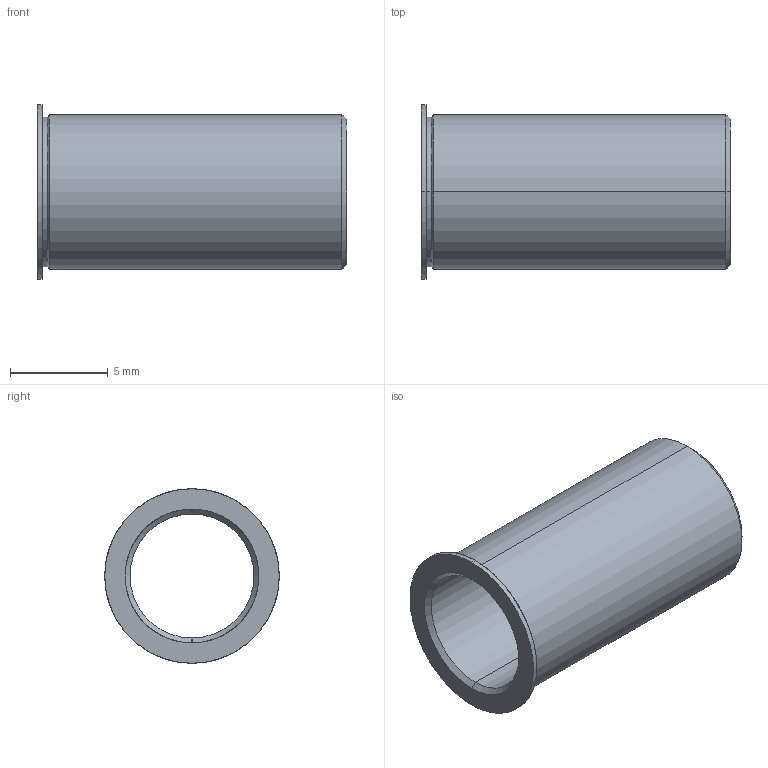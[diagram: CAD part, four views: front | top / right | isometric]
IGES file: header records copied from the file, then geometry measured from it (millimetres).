
Start section: SolidWorks IGES file using analytic representation for surfaces
Global section: file name: C:\Users\workpc\Desktop\KMA Solidworks\TS250-100 Series\TB250-80-625.IGS; native system: SolidWorks 2013; preprocessor: SolidWorks 2013; author: workpc; date: 130213.101428; units: inch
Bounding box: 15.88 x 8.94 x 8.94 mm (x, y, z)
Surface area: 770.2 mm2 (no closed solid volume)
Topology: 0 solids, 0 shells, 19 faces, 256 edges, 256 vertices
Faces by surface type: revolution 16, bspline 3
